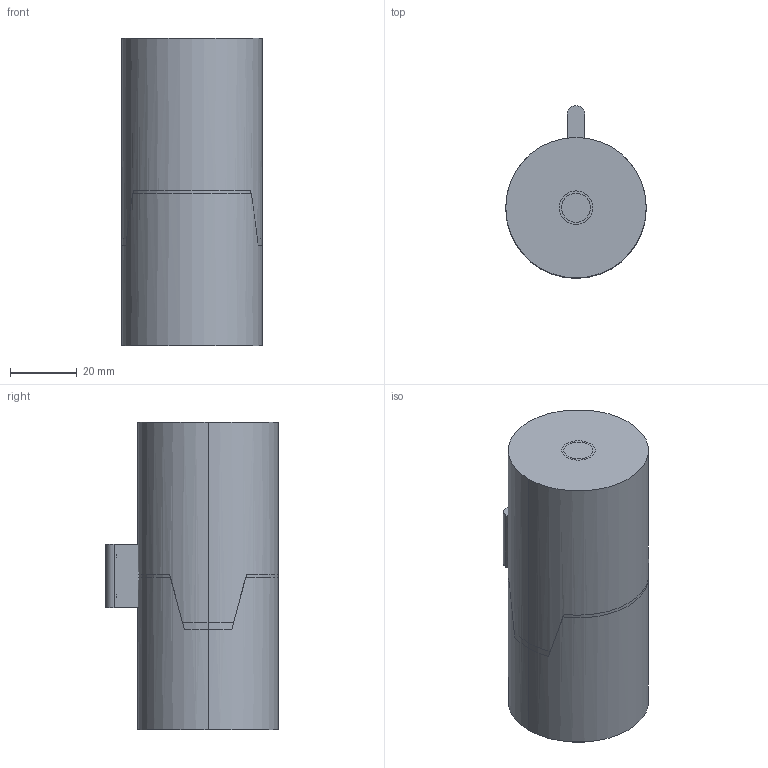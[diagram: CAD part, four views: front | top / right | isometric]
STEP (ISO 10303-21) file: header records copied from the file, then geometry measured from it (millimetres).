
FILE_DESCRIPTION (( 'STEP AP214' ), '1' );
FILE_NAME ('BruyRubio_BR06_42.STEP', '2019-12-17T08:49:10', ( '' ), ( '' ), 'SwSTEP 2.0', 'SolidWorks 2017', '' );
FILE_SCHEMA (( 'AUTOMOTIVE_DESIGN' ));
Length unit declared in the file: millimetre
Products named in the file (5): BruyRubio_BR06_42; Einbauraum_30c651; BR06 42_01d585; PAS 5 x 14_52af7d; PAS 5 x 14_ec8402
Assembly tree (4 placements, depth 2):
  BruyRubio_BR06_42
    Einbauraum_30c651
    BR06 42_01d585
    PAS 5 x 14_52af7d
    PAS 5 x 14_ec8402
Bounding box: 42 x 51.6 x 92 mm (x, y, z)
Surface area: 39424.6 mm2
Topology: 8 solids, 8 shells, 72 faces, 154 edges, 101 vertices
Faces by surface type: cylinder 31, plane 27, sphere 8, cone 6
Entity records: 3132 total; most frequent: CARTESIAN_POINT 484, DIRECTION 384, ORIENTED_EDGE 304, AXIS2_PLACEMENT_3D 165, EDGE_CURVE 152, VERTEX_POINT 101, UNCERTAINTY_MEASURE_WITH_UNIT 89, CIRCLE 86
